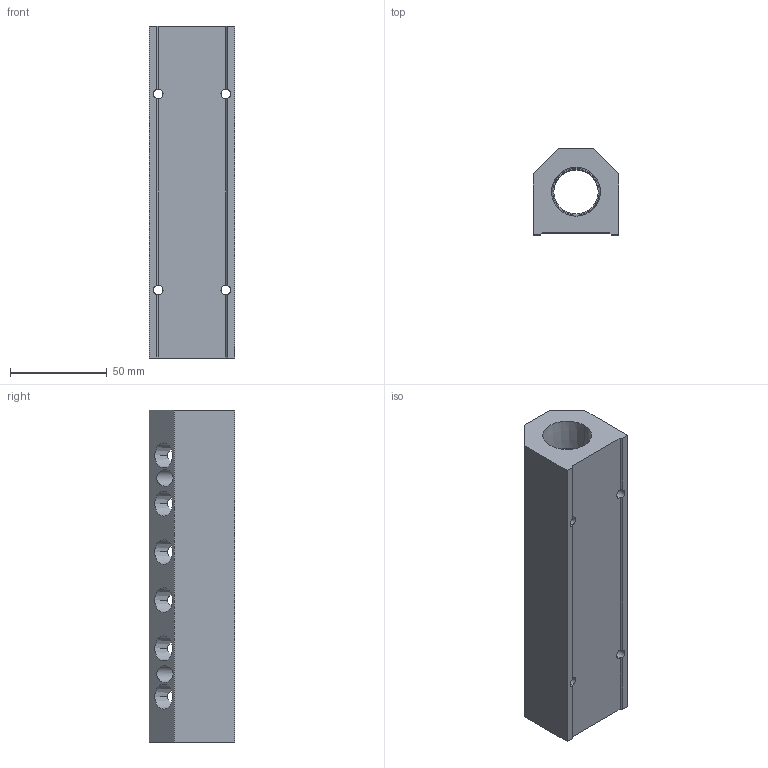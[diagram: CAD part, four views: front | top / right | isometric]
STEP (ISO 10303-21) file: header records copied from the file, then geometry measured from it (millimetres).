
FILE_DESCRIPTION (( 'STEP AP214' ), '1' );
FILE_NAME ('ALM6BCD-N4N12-172B.step', '2022-02-06T14:10:33', ( '' ), ( '' ), 'SwSTEP 2.0', 'SolidWorks 2020', '' );
FILE_SCHEMA (( 'AUTOMOTIVE_DESIGN' ));
Length unit declared in the file: millimetre
Products named in the file (1): ALM6BCD-N4N12-172B
Bounding box: 44.5 x 44.5 x 172 mm (x, y, z)
Volume: 203093.5 mm3; surface area: 49135.7 mm2
Topology: 1 solids, 1 shells, 348 faces, 962 edges, 636 vertices
Faces by surface type: plane 214, bspline 58, cone 50, cylinder 26
Entity records: 16704 total; most frequent: CARTESIAN_POINT 7801, ORIENTED_EDGE 1924, DIRECTION 1408, EDGE_CURVE 962, LINE 642, VECTOR 642, VERTEX_POINT 636, EDGE_LOOP 414
